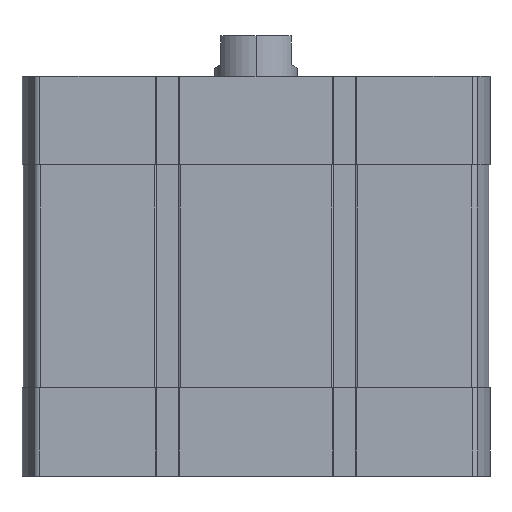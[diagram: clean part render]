
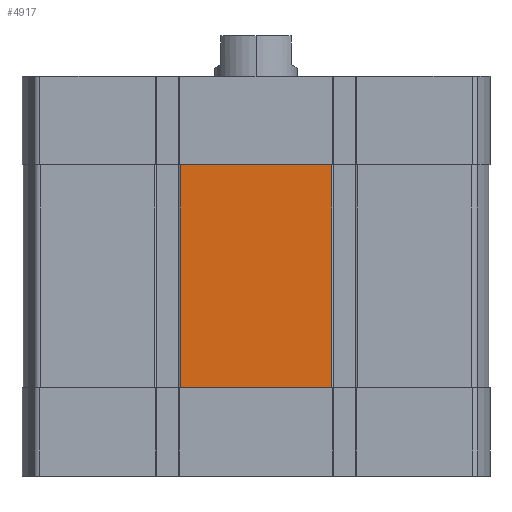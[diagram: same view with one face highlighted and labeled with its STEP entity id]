
A CAD part, left-side view. The second image highlights one B-rep face of the part: STEP entity #4917.
In plain terms, the highlighted planar face has unit normal (-1, 0, 0).
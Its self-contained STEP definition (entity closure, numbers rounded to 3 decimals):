
#461 = LINE ( 'NONE', #14762, #2737 ) ;
#656 = CARTESIAN_POINT ( 'NONE',  ( -56.5, 18.345, -75.5 ) ) ;
#688 = LINE ( 'NONE', #3865, #18288 ) ;
#1260 = CARTESIAN_POINT ( 'NONE',  ( -56.5, -18.345, -75.5 ) ) ;
#1285 = ORIENTED_EDGE ( 'NONE', *, *, #5339, .T. ) ;
#2550 = VERTEX_POINT ( 'NONE', #13644 ) ;
#2737 = VECTOR ( 'NONE', #17535, 1000. ) ;
#3564 = DIRECTION ( 'NONE',  ( 0., 0., 1. ) ) ;
#3691 = PLANE ( 'NONE',  #8775 ) ;
#3865 = CARTESIAN_POINT ( 'NONE',  ( -56.5, -18.345, -75.5 ) ) ;
#4366 = VECTOR ( 'NONE', #5888, 1000. ) ;
#4917 = ADVANCED_FACE ( 'NONE', ( #8722 ), #3691, .T. ) ;
#5033 = DIRECTION ( 'NONE',  ( 0., 0., 1. ) ) ;
#5339 = EDGE_CURVE ( 'NONE', #14483, #2550, #688, .T. ) ;
#5888 = DIRECTION ( 'NONE',  ( 0., -1., 0. ) ) ;
#5933 = ORIENTED_EDGE ( 'NONE', *, *, #10587, .F. ) ;
#8414 = DIRECTION ( 'NONE',  ( 0., 0., 1. ) ) ;
#8722 = FACE_OUTER_BOUND ( 'NONE', #19878, .T. ) ;
#8775 = AXIS2_PLACEMENT_3D ( 'NONE', #18096, #14616, #8414 ) ;
#9071 = CARTESIAN_POINT ( 'NONE',  ( -56.5, 18.345, -21.5 ) ) ;
#9758 = CARTESIAN_POINT ( 'NONE',  ( -56.5, 18.345, -75.5 ) ) ;
#10421 = VERTEX_POINT ( 'NONE', #656 ) ;
#10423 = EDGE_CURVE ( 'NONE', #10421, #14483, #461, .T. ) ;
#10587 = EDGE_CURVE ( 'NONE', #19110, #2550, #13726, .T. ) ;
#11127 = ORIENTED_EDGE ( 'NONE', *, *, #10423, .T. ) ;
#13062 = LINE ( 'NONE', #9758, #16289 ) ;
#13644 = CARTESIAN_POINT ( 'NONE',  ( -56.5, -18.345, -21.5 ) ) ;
#13726 = LINE ( 'NONE', #9071, #4366 ) ;
#14483 = VERTEX_POINT ( 'NONE', #1260 ) ;
#14616 = DIRECTION ( 'NONE',  ( -1., 0., 0. ) ) ;
#14762 = CARTESIAN_POINT ( 'NONE',  ( -56.5, 18.345, -75.5 ) ) ;
#15375 = ORIENTED_EDGE ( 'NONE', *, *, #20072, .F. ) ;
#16289 = VECTOR ( 'NONE', #5033, 1000. ) ;
#17331 = CARTESIAN_POINT ( 'NONE',  ( -56.5, 18.345, -21.5 ) ) ;
#17535 = DIRECTION ( 'NONE',  ( 0., -1., 0. ) ) ;
#18096 = CARTESIAN_POINT ( 'NONE',  ( -56.5, 18.345, -75.5 ) ) ;
#18288 = VECTOR ( 'NONE', #3564, 1000. ) ;
#19110 = VERTEX_POINT ( 'NONE', #17331 ) ;
#19878 = EDGE_LOOP ( 'NONE', ( #5933, #15375, #11127, #1285 ) ) ;
#20072 = EDGE_CURVE ( 'NONE', #10421, #19110, #13062, .T. ) ;
